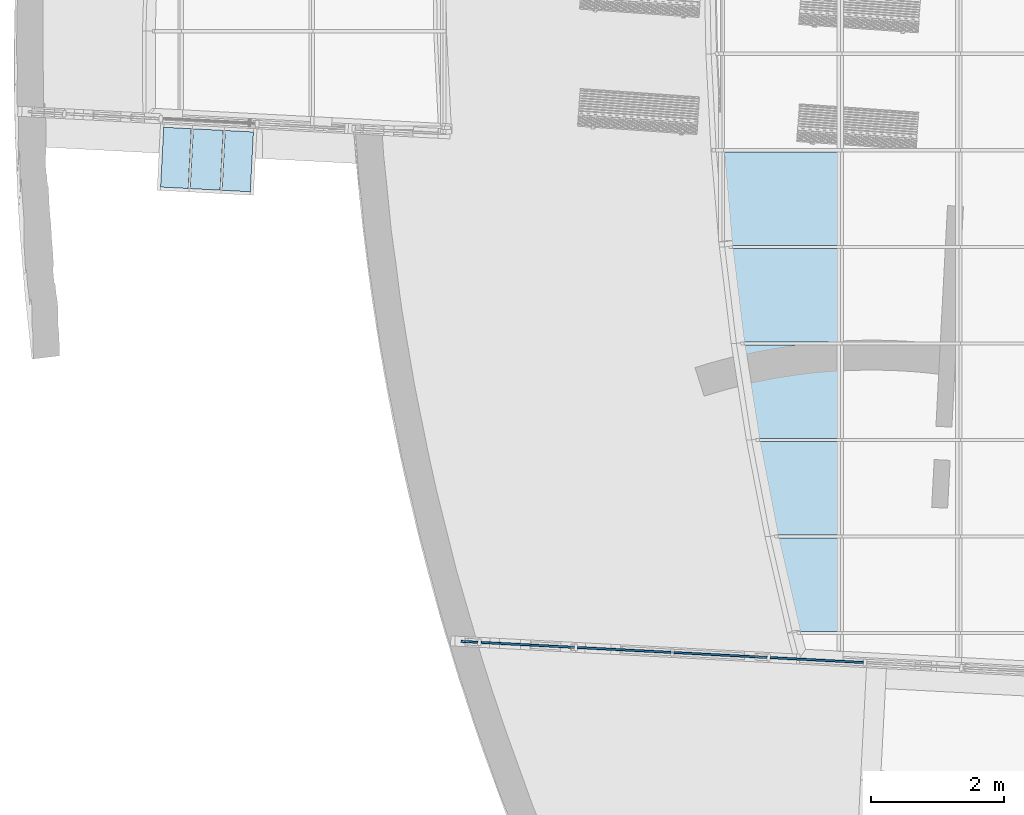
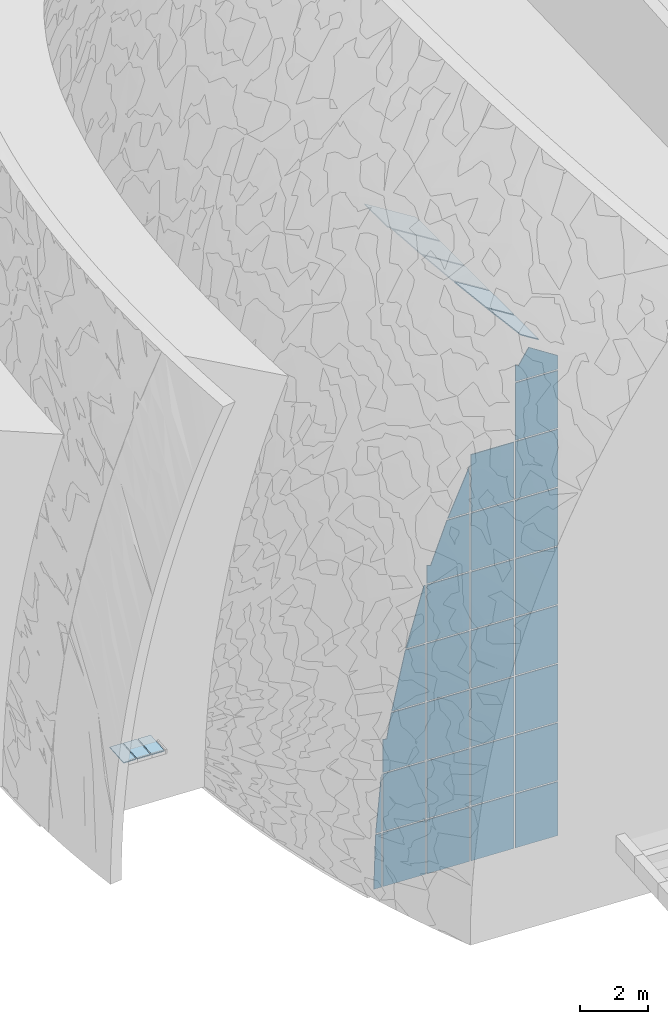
# One storey, part 34 of 82: 38 plates, 2 elements without a shape of their own.
"""IFC2X3 building model written with IfcOpenShell, lengths in millimetres."""

from ifc_helpers import new_model, entity, si_unit, converted_unit, derived_unit, direction, frame, frame_2d, origin, origin_2d_with_axis, place, context, subcontext, project, spatial, polyline, rectangle, outline, extrude, source, transform, mapped, material, layer, layer_set, layer_usage, type_object, type_shapes, element, aggregate, save


model = new_model("IFC2X3")

# Units and contexts
model_context = context("Model", 3, precision=0.01, world=origin(), true_north=direction((6.12303176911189e-17, 1.0)))
body_context = subcontext(model_context, "Body", "Model", "MODEL_VIEW")
ifc_project = project(units=[si_unit("LENGTHUNIT", "METRE", prefix="MILLI"), si_unit("AREAUNIT", "SQUARE_METRE"), si_unit("VOLUMEUNIT", "CUBIC_METRE"), converted_unit("PLANEANGLEUNIT", "DEGREE", entity("IfcRatioMeasure", 0.0174532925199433), si_unit("PLANEANGLEUNIT", "RADIAN"), dimensions=[0, 0, 0, 0, 0, 0, 0]), si_unit("MASSUNIT", "GRAM", prefix="KILO"), derived_unit("MASSDENSITYUNIT", [(si_unit("MASSUNIT", "GRAM", prefix="KILO"), 1), (si_unit("LENGTHUNIT", "METRE"), -3)]), si_unit("TIMEUNIT", "SECOND"), si_unit("FREQUENCYUNIT", "HERTZ"), si_unit("THERMODYNAMICTEMPERATUREUNIT", "DEGREE_CELSIUS"), derived_unit("THERMALTRANSMITTANCEUNIT", [(si_unit("MASSUNIT", "GRAM", prefix="KILO"), 1), (si_unit("THERMODYNAMICTEMPERATUREUNIT", "KELVIN"), -1), (si_unit("TIMEUNIT", "SECOND"), -3)]), derived_unit("VOLUMETRICFLOWRATEUNIT", [(si_unit("LENGTHUNIT", "METRE"), 3), (si_unit("TIMEUNIT", "SECOND"), -1)]), si_unit("ELECTRICCURRENTUNIT", "AMPERE"), si_unit("ELECTRICVOLTAGEUNIT", "VOLT"), si_unit("POWERUNIT", "WATT"), si_unit("FORCEUNIT", "NEWTON", prefix="KILO"), si_unit("ILLUMINANCEUNIT", "LUX"), si_unit("LUMINOUSFLUXUNIT", "LUMEN"), si_unit("LUMINOUSINTENSITYUNIT", "CANDELA"), derived_unit("USERDEFINED", [(si_unit("MASSUNIT", "GRAM", prefix="KILO"), -1), (si_unit("LENGTHUNIT", "METRE"), -2), (si_unit("TIMEUNIT", "SECOND"), 3), (si_unit("LUMINOUSFLUXUNIT", "LUMEN"), 1)]), derived_unit("LINEARVELOCITYUNIT", [(si_unit("LENGTHUNIT", "METRE"), 1), (si_unit("TIMEUNIT", "SECOND"), -1)]), si_unit("PRESSUREUNIT", "PASCAL"), derived_unit("USERDEFINED", [(si_unit("LENGTHUNIT", "METRE"), -2), (si_unit("MASSUNIT", "GRAM", prefix="KILO"), 1), (si_unit("TIMEUNIT", "SECOND"), -2)])], contexts=[model_context])

# Site, building, storey
site_placement = place(None, origin())
site = spatial("IfcSite", under=ifc_project, at=site_placement, Name="表面", CompositionType="ELEMENT")
building_placement = place(site_placement, origin())
building = spatial("IfcBuilding", under=site, at=building_placement, CompositionType="ELEMENT")
storey_placement = place(building_placement, origin())
storey = spatial("IfcBuildingStorey", under=building, at=storey_placement, Name="1F", CompositionType="ELEMENT", Elevation=0.0)

# Curtain wall, plates
curtain_wall_type_1 = type_object("IfcCurtainWallType", Name="幕墙系统:1450 x 2100mm", PredefinedType="NOTDEFINED")
curtain_wall_placement = place(storey_placement, origin())
curtain_wall = element("IfcCurtainWall", 1, at=curtain_wall_placement, inside=storey, type_object=curtain_wall_type_1, Name="幕墙系统:1450 x 2100mm", ObjectType="幕墙系统:1450 x 2100mm")
ifc_material_1 = material(Name="<Unnamed>")
ifc_layer = layer(ifc_material_1, 30.0)
ifc_layer_set = layer_set([ifc_layer], Name="幕墙系统:1450 x 2100mm")
ifc_layer_usage_1 = layer_usage(ifc_layer_set, "AXIS3", "POSITIVE", 0.0)
plate_type_1 = type_object("IfcPlateType", Name="玻璃", PredefinedType="CURTAIN_PANEL", material=ifc_layer_set)
shared_shape_1 = source(origin(), body_context, "Body", "SweptSolid", [
    extrude(rectangle(XDim=30.0, YDim=1400.0, at=frame_2d((0.0, 3.97903932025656e-13), x_axis=(1.0, 0.0))), frame((0.0, 0.0, 0.0), z_axis=(0.0, 0.0, 1.0), x_axis=(0.0, 1.0, 0.0)), (0.0, 0.0, 1.0), 2050.0),
])
type_shapes(plate_type_1, [shared_shape_1])
plate_1_placement = place(curtain_wall_placement, frame((-29172.6966196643, -28294.2495335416, 2125.0), z_axis=(0.0, 0.0, 1.0), x_axis=(-0.998629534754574, 0.0523359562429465, 0.0)))
plate_1 = element("IfcPlate", 2, at=plate_1_placement, type_object=plate_type_1, material=ifc_layer_usage_1, Name="系统嵌板:玻璃", ObjectType="玻璃", context=body_context, shape_type="MappedRepresentation", body=[
    mapped(shared_shape_1, transform((0.0, 0.0, 0.0), scale=1.0)),
])
ifc_layer_usage_2 = layer_usage(ifc_layer_set, "AXIS3", "POSITIVE", 0.0)
plate_2_placement = place(curtain_wall_placement, frame((-30620.7094450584, -28218.3623969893, 2125.0), z_axis=(0.0, 0.0, 1.0), x_axis=(-0.998629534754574, 0.0523359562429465, 0.0)))
plate_2 = element("IfcPlate", 3, at=plate_2_placement, type_object=plate_type_1, material=ifc_layer_usage_2, Name="系统嵌板:玻璃", ObjectType="玻璃", context=body_context, shape_type="MappedRepresentation", body=[
    mapped(shared_shape_1, transform((0.0, 0.0, 0.0), scale=1.0)),
])
ifc_layer_usage_3 = layer_usage(ifc_layer_set, "AXIS3", "POSITIVE", 0.0)
plate_3_placement = place(curtain_wall_placement, frame((-32068.7222704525, -28142.4752604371, 2125.0), z_axis=(0.0, 0.0, 1.0), x_axis=(-0.998629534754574, 0.0523359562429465, 0.0)))
plate_3 = element("IfcPlate", 4, at=plate_3_placement, type_object=plate_type_1, material=ifc_layer_usage_3, Name="系统嵌板:玻璃", ObjectType="玻璃", context=body_context, shape_type="MappedRepresentation", body=[
    mapped(shared_shape_1, transform((0.0, 0.0, 0.0), scale=1.0)),
])
ifc_layer_usage_4 = layer_usage(ifc_layer_set, "AXIS3", "POSITIVE", 0.0)
plate_4_placement = place(curtain_wall_placement, frame((-33516.7350958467, -28066.5881238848, 2125.0), z_axis=(0.0, 0.0, 1.0), x_axis=(-0.998629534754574, 0.0523359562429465, 0.0)))
plate_4 = element("IfcPlate", 5, at=plate_4_placement, type_object=plate_type_1, material=ifc_layer_usage_4, Name="系统嵌板:玻璃", ObjectType="玻璃", context=body_context, shape_type="MappedRepresentation", body=[
    mapped(shared_shape_1, transform((0.0, 0.0, 0.0), scale=1.0)),
])
ifc_layer_usage_5 = layer_usage(ifc_layer_set, "AXIS3", "POSITIVE", 0.0)
plate_5_placement = place(curtain_wall_placement, frame((-29172.6966196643, -28294.2495335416, 4225.0), z_axis=(0.0, 0.0, 1.0), x_axis=(-0.998629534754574, 0.0523359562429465, 0.0)))
plate_5 = element("IfcPlate", 6, at=plate_5_placement, type_object=plate_type_1, material=ifc_layer_usage_5, Name="系统嵌板:玻璃", ObjectType="玻璃", context=body_context, shape_type="MappedRepresentation", body=[
    mapped(shared_shape_1, transform((0.0, 0.0, 0.0), scale=1.0)),
])
ifc_layer_usage_6 = layer_usage(ifc_layer_set, "AXIS3", "POSITIVE", 0.0)
plate_6_placement = place(curtain_wall_placement, frame((-30620.7094450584, -28218.3623969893, 4225.0), z_axis=(0.0, 0.0, 1.0), x_axis=(-0.998629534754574, 0.0523359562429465, 0.0)))
plate_6 = element("IfcPlate", 7, at=plate_6_placement, type_object=plate_type_1, material=ifc_layer_usage_6, Name="系统嵌板:玻璃", ObjectType="玻璃", context=body_context, shape_type="MappedRepresentation", body=[
    mapped(shared_shape_1, transform((0.0, 0.0, 0.0), scale=1.0)),
])
ifc_layer_usage_7 = layer_usage(ifc_layer_set, "AXIS3", "POSITIVE", 0.0)
plate_7_placement = place(curtain_wall_placement, frame((-32068.7222704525, -28142.4752604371, 4225.0), z_axis=(0.0, 0.0, 1.0), x_axis=(-0.998629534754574, 0.0523359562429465, 0.0)))
plate_7 = element("IfcPlate", 8, at=plate_7_placement, type_object=plate_type_1, material=ifc_layer_usage_7, Name="系统嵌板:玻璃", ObjectType="玻璃", context=body_context, shape_type="MappedRepresentation", body=[
    mapped(shared_shape_1, transform((0.0, 0.0, 0.0), scale=1.0)),
])
ifc_layer_usage_8 = layer_usage(ifc_layer_set, "AXIS3", "POSITIVE", 0.0)
plate_8_placement = place(curtain_wall_placement, frame((-29172.6966196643, -28294.2495335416, 6325.0), z_axis=(0.0, 0.0, 1.0), x_axis=(-0.998629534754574, 0.0523359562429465, 0.0)))
plate_8 = element("IfcPlate", 9, at=plate_8_placement, type_object=plate_type_1, material=ifc_layer_usage_8, Name="系统嵌板:玻璃", ObjectType="玻璃", context=body_context, shape_type="MappedRepresentation", body=[
    mapped(shared_shape_1, transform((0.0, 0.0, 0.0), scale=1.0)),
])
ifc_layer_usage_9 = layer_usage(ifc_layer_set, "AXIS3", "POSITIVE", 0.0)
plate_9_placement = place(curtain_wall_placement, frame((-30620.7094450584, -28218.3623969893, 6325.0), z_axis=(0.0, 0.0, 1.0), x_axis=(-0.998629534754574, 0.0523359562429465, 0.0)))
plate_9 = element("IfcPlate", 10, at=plate_9_placement, type_object=plate_type_1, material=ifc_layer_usage_9, Name="系统嵌板:玻璃", ObjectType="玻璃", context=body_context, shape_type="MappedRepresentation", body=[
    mapped(shared_shape_1, transform((0.0, 0.0, 0.0), scale=1.0)),
])
ifc_layer_usage_10 = layer_usage(ifc_layer_set, "AXIS3", "POSITIVE", 0.0)
plate_10_placement = place(curtain_wall_placement, frame((-32068.7222704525, -28142.4752604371, 6325.0), z_axis=(0.0, 0.0, 1.0), x_axis=(-0.998629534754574, 0.0523359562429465, 0.0)))
plate_10 = element("IfcPlate", 11, at=plate_10_placement, type_object=plate_type_1, material=ifc_layer_usage_10, Name="系统嵌板:玻璃", ObjectType="玻璃", context=body_context, shape_type="MappedRepresentation", body=[
    mapped(shared_shape_1, transform((0.0, 0.0, 0.0), scale=1.0)),
])
ifc_layer_usage_11 = layer_usage(ifc_layer_set, "AXIS3", "POSITIVE", 0.0)
plate_11_placement = place(curtain_wall_placement, frame((-29172.6966196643, -28294.2495335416, 8425.0), z_axis=(0.0, 0.0, 1.0), x_axis=(-0.998629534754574, 0.0523359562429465, 0.0)))
plate_11 = element("IfcPlate", 12, at=plate_11_placement, type_object=plate_type_1, material=ifc_layer_usage_11, Name="系统嵌板:玻璃", ObjectType="玻璃", context=body_context, shape_type="MappedRepresentation", body=[
    mapped(shared_shape_1, transform((0.0, 0.0, 0.0), scale=1.0)),
])
ifc_layer_usage_12 = layer_usage(ifc_layer_set, "AXIS3", "POSITIVE", 0.0)
plate_12_placement = place(curtain_wall_placement, frame((-30620.7094450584, -28218.3623969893, 8425.0), z_axis=(0.0, 0.0, 1.0), x_axis=(-0.998629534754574, 0.0523359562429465, 0.0)))
plate_12 = element("IfcPlate", 13, at=plate_12_placement, type_object=plate_type_1, material=ifc_layer_usage_12, Name="系统嵌板:玻璃", ObjectType="玻璃", context=body_context, shape_type="MappedRepresentation", body=[
    mapped(shared_shape_1, transform((0.0, 0.0, 0.0), scale=1.0)),
])
ifc_layer_usage_13 = layer_usage(ifc_layer_set, "AXIS3", "POSITIVE", 0.0)
plate_13_placement = place(curtain_wall_placement, frame((-32068.7222704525, -28142.4752604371, 8425.0), z_axis=(0.0, 0.0, 1.0), x_axis=(-0.998629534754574, 0.0523359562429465, 0.0)))
plate_13 = element("IfcPlate", 14, at=plate_13_placement, type_object=plate_type_1, material=ifc_layer_usage_13, Name="系统嵌板:玻璃", ObjectType="玻璃", context=body_context, shape_type="MappedRepresentation", body=[
    mapped(shared_shape_1, transform((0.0, 0.0, 0.0), scale=1.0)),
])
ifc_layer_usage_14 = layer_usage(ifc_layer_set, "AXIS3", "POSITIVE", 0.0)
plate_14_placement = place(curtain_wall_placement, frame((-29172.6966196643, -28294.2495335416, 10525.0), z_axis=(0.0, 0.0, 1.0), x_axis=(-0.998629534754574, 0.0523359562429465, 0.0)))
plate_14 = element("IfcPlate", 15, at=plate_14_placement, type_object=plate_type_1, material=ifc_layer_usage_14, Name="系统嵌板:玻璃", ObjectType="玻璃", context=body_context, shape_type="MappedRepresentation", body=[
    mapped(shared_shape_1, transform((0.0, 0.0, 0.0), scale=1.0)),
])
ifc_layer_usage_15 = layer_usage(ifc_layer_set, "AXIS3", "POSITIVE", 0.0)
plate_15_placement = place(curtain_wall_placement, frame((-30620.7094450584, -28218.3623969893, 10525.0), z_axis=(0.0, 0.0, 1.0), x_axis=(-0.998629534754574, 0.0523359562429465, 0.0)))
plate_15 = element("IfcPlate", 16, at=plate_15_placement, type_object=plate_type_1, material=ifc_layer_usage_15, Name="系统嵌板:玻璃", ObjectType="玻璃", context=body_context, shape_type="MappedRepresentation", body=[
    mapped(shared_shape_1, transform((0.0, 0.0, 0.0), scale=1.0)),
])
ifc_layer_usage_16 = layer_usage(ifc_layer_set, "AXIS3", "POSITIVE", 0.0)
plate_16_placement = place(curtain_wall_placement, frame((-29172.6966196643, -28294.2495335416, 12625.0), z_axis=(0.0, 0.0, 1.0), x_axis=(-0.998629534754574, 0.0523359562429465, 0.0)))
plate_16 = element("IfcPlate", 17, at=plate_16_placement, type_object=plate_type_1, material=ifc_layer_usage_16, Name="系统嵌板:玻璃", ObjectType="玻璃", context=body_context, shape_type="MappedRepresentation", body=[
    mapped(shared_shape_1, transform((0.0, 0.0, 0.0), scale=1.0)),
])
ifc_layer_usage_17 = layer_usage(ifc_layer_set, "AXIS3", "POSITIVE", 0.0)
plate_17_placement = place(curtain_wall_placement, frame((-30620.7094450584, -28218.3623969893, 12625.0), z_axis=(0.0, 0.0, 1.0), x_axis=(-0.998629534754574, 0.0523359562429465, 0.0)))
plate_17 = element("IfcPlate", 18, at=plate_17_placement, type_object=plate_type_1, material=ifc_layer_usage_17, Name="系统嵌板:玻璃", ObjectType="玻璃", context=body_context, shape_type="MappedRepresentation", body=[
    mapped(shared_shape_1, transform((0.0, 0.0, 0.0), scale=1.0)),
])
ifc_layer_usage_18 = layer_usage(ifc_layer_set, "AXIS3", "POSITIVE", 0.0)
plate_18_placement = place(curtain_wall_placement, frame((-29172.6966196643, -28294.2495335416, 14725.0), z_axis=(0.0, 0.0, 1.0), x_axis=(-0.998629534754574, 0.0523359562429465, 0.0)))
plate_18 = element("IfcPlate", 19, at=plate_18_placement, type_object=plate_type_1, material=ifc_layer_usage_18, Name="系统嵌板:玻璃", ObjectType="玻璃", context=body_context, shape_type="MappedRepresentation", body=[
    mapped(shared_shape_1, transform((0.0, 0.0, 0.0), scale=1.0)),
])
ifc_layer_usage_19 = layer_usage(ifc_layer_set, "AXIS3", "POSITIVE", 0.0)
plate_type_2 = type_object("IfcPlateType", Name="玻璃", PredefinedType="CURTAIN_PANEL", material=ifc_layer_set)
shared_shape_2 = source(origin(), body_context, "Body", "SweptSolid", [
    extrude(rectangle(XDim=30.0, YDim=1400.0, at=frame_2d((0.0, 3.97903932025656e-13), x_axis=(1.0, 0.0))), frame((0.0, 0.0, 0.0), z_axis=(0.0, 0.0, 1.0), x_axis=(0.0, 1.0, 0.0)), (0.0, 0.0, 1.0), 1925.0),
])
type_shapes(plate_type_2, [shared_shape_2])
plate_19_placement = place(curtain_wall_placement, frame((-29172.6966196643, -28294.2495335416, 150.0), z_axis=(0.0, 0.0, 1.0), x_axis=(-0.998629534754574, 0.0523359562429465, 0.0)))
plate_19 = element("IfcPlate", 20, at=plate_19_placement, type_object=plate_type_2, material=ifc_layer_usage_19, Name="系统嵌板:玻璃", ObjectType="玻璃", context=body_context, shape_type="MappedRepresentation", body=[
    mapped(shared_shape_2, transform((0.0, 0.0, 0.0), scale=1.0)),
])
ifc_layer_usage_20 = layer_usage(ifc_layer_set, "AXIS3", "POSITIVE", 0.0)
plate_20_placement = place(curtain_wall_placement, frame((-30620.7094450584, -28218.3623969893, 150.0), z_axis=(0.0, 0.0, 1.0), x_axis=(-0.998629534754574, 0.0523359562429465, 0.0)))
plate_20 = element("IfcPlate", 21, at=plate_20_placement, type_object=plate_type_2, material=ifc_layer_usage_20, Name="系统嵌板:玻璃", ObjectType="玻璃", context=body_context, shape_type="MappedRepresentation", body=[
    mapped(shared_shape_2, transform((0.0, 0.0, 0.0), scale=1.0)),
])
ifc_layer_usage_21 = layer_usage(ifc_layer_set, "AXIS3", "POSITIVE", 0.0)
plate_21_placement = place(curtain_wall_placement, frame((-32068.7222704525, -28142.4752604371, 150.0), z_axis=(0.0, 0.0, 1.0), x_axis=(-0.998629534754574, 0.0523359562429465, 0.0)))
plate_21 = element("IfcPlate", 22, at=plate_21_placement, type_object=plate_type_2, material=ifc_layer_usage_21, Name="系统嵌板:玻璃", ObjectType="玻璃", context=body_context, shape_type="MappedRepresentation", body=[
    mapped(shared_shape_2, transform((0.0, 0.0, 0.0), scale=1.0)),
])
ifc_layer_usage_22 = layer_usage(ifc_layer_set, "AXIS3", "POSITIVE", 0.0)
plate_22_placement = place(curtain_wall_placement, frame((-33516.7350958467, -28066.5881238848, 150.0), z_axis=(0.0, 0.0, 1.0), x_axis=(-0.998629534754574, 0.0523359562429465, 0.0)))
plate_22 = element("IfcPlate", 23, at=plate_22_placement, type_object=plate_type_2, material=ifc_layer_usage_22, Name="系统嵌板:玻璃", ObjectType="玻璃", context=body_context, shape_type="MappedRepresentation", body=[
    mapped(shared_shape_2, transform((0.0, 0.0, 0.0), scale=1.0)),
])
ifc_layer_usage_23 = layer_usage(ifc_layer_set, "AXIS3", "POSITIVE", 0.0)
plate_type_3 = type_object("IfcPlateType", Name="玻璃", PredefinedType="CURTAIN_PANEL", material=ifc_layer_set)
shared_shape_3 = source(origin(), body_context, "Body", "SweptSolid", [
    extrude(outline(polyline([(-1323.94470153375, -913.037626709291), (726.055298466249, -913.037626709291), (726.055298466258, 435.163797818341), (602.160726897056, 416.986709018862), (593.618079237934, 486.962373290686), (-1323.94470153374, 486.962373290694), (-1323.94470153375, -913.037626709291)])), frame((213.037626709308, -15.0, 1323.94470153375), z_axis=(0.0, 1.0, 0.0), x_axis=(0.0, 0.0, 1.0)), (0.0, 0.0, 1.0), 30.0),
])
type_shapes(plate_type_3, [shared_shape_3])
plate_23_placement = place(curtain_wall_placement, frame((-28844.805825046, -21363.9031535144, 17720.4320530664), z_axis=(-0.848048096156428, 0.0, 0.529919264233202), x_axis=(0.0, -1.0, 0.0)))
plate_23 = element("IfcPlate", 24, at=plate_23_placement, type_object=plate_type_3, material=ifc_layer_usage_23, Name="系统嵌板:玻璃", ObjectType="玻璃", context=body_context, shape_type="MappedRepresentation", body=[
    mapped(shared_shape_3, transform((0.0, 0.0, 0.0), scale=1.0)),
])
ifc_layer_usage_24 = layer_usage(ifc_layer_set, "AXIS3", "POSITIVE", 0.0)
plate_type_4 = type_object("IfcPlateType", Name="玻璃", PredefinedType="CURTAIN_PANEL", material=ifc_layer_set)
shared_shape_4 = source(origin(), body_context, "Body", "SweptSolid", [
    extrude(outline(polyline([(-904.938677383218, -700.0), (1005.55094502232, -700.0), (804.326409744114, 700.0), (-904.938677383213, 700.0), (-904.938677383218, -700.0)])), frame((0.0, -15.0, 904.938677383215), z_axis=(0.0, 1.0, 0.0), x_axis=(0.0, 0.0, 1.0)), (0.0, 0.0, 1.0), 30.0),
])
type_shapes(plate_type_4, [shared_shape_4])
plate_24_placement = place(curtain_wall_placement, frame((-28844.8058250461, -22813.9031535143, 17720.4320530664), z_axis=(-0.848048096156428, 0.0, 0.529919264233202), x_axis=(0.0, -1.0, 0.0)))
plate_24 = element("IfcPlate", 25, at=plate_24_placement, type_object=plate_type_4, material=ifc_layer_usage_24, Name="系统嵌板:玻璃", ObjectType="玻璃", context=body_context, shape_type="MappedRepresentation", body=[
    mapped(shared_shape_4, transform((0.0, 0.0, 0.0), scale=1.0)),
])
ifc_layer_usage_25 = layer_usage(ifc_layer_set, "AXIS3", "POSITIVE", 0.0)
plate_type_5 = type_object("IfcPlateType", Name="玻璃", PredefinedType="CURTAIN_PANEL", material=ifc_layer_set)
shared_shape_5 = source(origin(), body_context, "Body", "SweptSolid", [
    extrude(outline(polyline([(-785.126467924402, -700.0), (914.896364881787, -700.0), (655.356570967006, 700.0), (-785.126467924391, 700.0), (-785.126467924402, -700.0)])), frame((0.0, -15.0, 785.126467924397), z_axis=(0.0, 1.0, 0.0), x_axis=(0.0, 0.0, 1.0)), (0.0, 0.0, 1.0), 30.0),
])
type_shapes(plate_type_5, [shared_shape_5])
plate_25_placement = place(curtain_wall_placement, frame((-28844.8058250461, -24263.9031535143, 17720.4320530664), z_axis=(-0.848048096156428, 0.0, 0.529919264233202), x_axis=(0.0, -1.0, 0.0)))
plate_25 = element("IfcPlate", 26, at=plate_25_placement, type_object=plate_type_5, material=ifc_layer_usage_25, Name="系统嵌板:玻璃", ObjectType="玻璃", context=body_context, shape_type="MappedRepresentation", body=[
    mapped(shared_shape_5, transform((0.0, 0.0, 0.0), scale=1.0)),
])
ifc_layer_usage_26 = layer_usage(ifc_layer_set, "AXIS3", "POSITIVE", 0.0)
plate_type_6 = type_object("IfcPlateType", Name="玻璃", PredefinedType="CURTAIN_PANEL", material=ifc_layer_set)
shared_shape_6 = source(origin(), body_context, "Body", "SweptSolid", [
    extrude(outline(polyline([(-634.629514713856, -700.0), (794.225614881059, -700.0), (475.033414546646, 700.0), (-634.62951471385, 700.0), (-634.629514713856, -700.0)])), frame((0.0, -15.0, 634.629514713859), z_axis=(0.0, 1.0, 0.0), x_axis=(0.0, 0.0, 1.0)), (0.0, 0.0, 1.0), 30.0),
])
type_shapes(plate_type_6, [shared_shape_6])
plate_26_placement = place(curtain_wall_placement, frame((-28844.8058250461, -25713.9031535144, 17720.4320530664), z_axis=(-0.848048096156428, 0.0, 0.529919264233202), x_axis=(0.0, -1.0, 0.0)))
plate_26 = element("IfcPlate", 27, at=plate_26_placement, type_object=plate_type_6, material=ifc_layer_usage_26, Name="系统嵌板:玻璃", ObjectType="玻璃", context=body_context, shape_type="MappedRepresentation", body=[
    mapped(shared_shape_6, transform((0.0, 0.0, 0.0), scale=1.0)),
])
ifc_layer_usage_27 = layer_usage(ifc_layer_set, "AXIS3", "POSITIVE", 0.0)
plate_type_7 = type_object("IfcPlateType", Name="玻璃", PredefinedType="CURTAIN_PANEL", material=ifc_layer_set)
shared_shape_7 = source(origin(), body_context, "Body", "SweptSolid", [
    extrude(outline(polyline([(-452.650629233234, -700.0), (642.923545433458, -700.0), (262.377713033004, 700.0), (-452.650629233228, 700.0), (-452.650629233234, -700.0)])), frame((0.0, -15.0, 452.650629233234), z_axis=(0.0, 1.0, 0.0), x_axis=(0.0, 0.0, 1.0)), (0.0, 0.0, 1.0), 30.0),
])
type_shapes(plate_type_7, [shared_shape_7])
plate_27_placement = place(curtain_wall_placement, frame((-28844.8058250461, -27163.9031535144, 17720.4320530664), z_axis=(-0.848048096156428, 0.0, 0.529919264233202), x_axis=(0.0, -1.0, 0.0)))
plate_27 = element("IfcPlate", 28, at=plate_27_placement, type_object=plate_type_7, material=ifc_layer_usage_27, Name="系统嵌板:玻璃", ObjectType="玻璃", context=body_context, shape_type="MappedRepresentation", body=[
    mapped(shared_shape_7, transform((0.0, 0.0, 0.0), scale=1.0)),
])
ifc_layer_usage_28 = layer_usage(ifc_layer_set, "AXIS3", "POSITIVE", 0.0)
plate_type_8 = type_object("IfcPlateType", Name="玻璃", PredefinedType="CURTAIN_PANEL", material=ifc_layer_set)
shared_shape_8 = source(origin(), body_context, "Body", "SweptSolid", [
    extrude(outline(polyline([(-962.5, -111.184773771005), (962.5, -111.184773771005), (962.5, 81.5650919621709), (-962.5, 140.804455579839), (-962.5, -111.184773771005)])), frame((-14.8098409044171, -15.0, 962.5), z_axis=(0.0, 1.0, 0.0), x_axis=(0.0, 0.0, 1.0)), (0.0, 0.0, 1.0), 30.0),
])
type_shapes(plate_type_8, [shared_shape_8])
plate_28_placement = place(curtain_wall_placement, frame((-34391.5291903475, -28020.7421080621, 150.0), z_axis=(0.0, 0.0, 1.0), x_axis=(-0.998629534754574, 0.0523359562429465, 0.0)))
plate_28 = element("IfcPlate", 29, at=plate_28_placement, type_object=plate_type_8, material=ifc_layer_usage_28, Name="系统嵌板:玻璃", ObjectType="玻璃", context=body_context, shape_type="MappedRepresentation", body=[
    mapped(shared_shape_8, transform((0.0, 0.0, 0.0), scale=1.0)),
])
ifc_layer_usage_29 = layer_usage(ifc_layer_set, "AXIS3", "POSITIVE", 0.0)
plate_type_9 = type_object("IfcPlateType", Name="玻璃", PredefinedType="CURTAIN_PANEL", material=ifc_layer_set)
shared_shape_9 = source(origin(), body_context, "Body", "SweptSolid", [
    extrude(outline(polyline([(-680.139390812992, -63.0306527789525), (1360.27878162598, -63.0306527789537), (-680.139390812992, 126.061305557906), (-680.139390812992, -63.0306527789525)])), frame((-31.5153263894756, -15.0, 680.139390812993), z_axis=(0.0, 1.0, 0.0), x_axis=(0.0, 0.0, 1.0)), (0.0, 0.0, 1.0), 30.0),
])
type_shapes(plate_type_9, [shared_shape_9])
plate_29_placement = place(curtain_wall_placement, frame((-34360.1236541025, -28022.3880024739, 2125.0), z_axis=(0.0, 0.0, 1.0), x_axis=(-0.998629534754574, 0.0523359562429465, 0.0)))
plate_29 = element("IfcPlate", 30, at=plate_29_placement, type_object=plate_type_9, material=ifc_layer_usage_29, Name="系统嵌板:玻璃", ObjectType="玻璃", context=body_context, shape_type="MappedRepresentation", body=[
    mapped(shared_shape_9, transform((0.0, 0.0, 0.0), scale=1.0)),
])
ifc_layer_usage_30 = layer_usage(ifc_layer_set, "AXIS3", "POSITIVE", 0.0)
plate_type_10 = type_object("IfcPlateType", Name="玻璃", PredefinedType="CURTAIN_PANEL", material=ifc_layer_set)
shared_shape_10 = source(origin(), body_context, "Body", "SweptSolid", [
    extrude(outline(polyline([(-1075.00364953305, -866.648856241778), (974.996350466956, -866.648856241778), (974.996350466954, 256.022040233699), (87.1452041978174, 410.573384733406), (112.869393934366, 533.351143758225), (-1075.00364953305, 533.351143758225), (-1075.00364953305, -866.648856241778)])), frame((166.64885624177, -15.0, 1075.00364953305), z_axis=(0.0, 1.0, 0.0), x_axis=(0.0, 0.0, 1.0)), (0.0, 0.0, 1.0), 30.0),
])
type_shapes(plate_type_10, [shared_shape_10])
plate_30_placement = place(curtain_wall_placement, frame((-33516.7350958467, -28066.5881238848, 4225.0), z_axis=(0.0, 0.0, 1.0), x_axis=(-0.998629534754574, 0.0523359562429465, 0.0)))
plate_30 = element("IfcPlate", 31, at=plate_30_placement, type_object=plate_type_10, material=ifc_layer_usage_30, Name="系统嵌板:玻璃", ObjectType="玻璃", context=body_context, shape_type="MappedRepresentation", body=[
    mapped(shared_shape_10, transform((0.0, 0.0, 0.0), scale=1.0)),
])
ifc_layer_usage_31 = layer_usage(ifc_layer_set, "AXIS3", "POSITIVE", 0.0)
plate_type_11 = type_object("IfcPlateType", Name="玻璃", PredefinedType="CURTAIN_PANEL", material=ifc_layer_set)
shared_shape_11 = source(origin(), body_context, "Body", "SweptSolid", [
    extrude(outline(polyline([(-1025.0, -442.728358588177), (1025.0, -442.728358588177), (1025.0, 216.72555682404), (-1025.0, 668.731160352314), (-1025.0, -442.728358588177)])), frame((-113.001400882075, -15.0, 1025.0), z_axis=(0.0, 1.0, 0.0), x_axis=(0.0, 0.0, 1.0)), (0.0, 0.0, 1.0), 30.0),
])
type_shapes(plate_type_11, [shared_shape_11])
plate_31_placement = place(curtain_wall_placement, frame((-33372.6625726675, -28074.1386448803, 6325.0), z_axis=(0.0, 0.0, 1.0), x_axis=(-0.998629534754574, 0.0523359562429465, 0.0)))
plate_31 = element("IfcPlate", 32, at=plate_31_placement, type_object=plate_type_11, material=ifc_layer_usage_31, Name="系统嵌板:玻璃", ObjectType="玻璃", context=body_context, shape_type="MappedRepresentation", body=[
    mapped(shared_shape_11, transform((0.0, 0.0, 0.0), scale=1.0)),
])
ifc_layer_usage_32 = layer_usage(ifc_layer_set, "AXIS3", "POSITIVE", 0.0)
plate_type_12 = type_object("IfcPlateType", Name="玻璃", PredefinedType="CURTAIN_PANEL", material=ifc_layer_set)
shared_shape_12 = source(origin(), body_context, "Body", "SweptSolid", [
    extrude(outline(polyline([(-1025.0, -174.467512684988), (1025.0, -174.467512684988), (1025.0, -120.838289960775), (-1025.0, 469.773315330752), (-1025.0, -174.467512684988)])), frame((-147.652901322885, -15.0, 1025.0), z_axis=(0.0, 1.0, 0.0), x_axis=(0.0, 0.0, 1.0)), (0.0, 0.0, 1.0), 30.0),
])
type_shapes(plate_type_12, [shared_shape_12])
plate_32_placement = place(curtain_wall_placement, frame((-33139.3733806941, -28086.3648133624, 8425.0), z_axis=(0.0, 0.0, 1.0), x_axis=(-0.998629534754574, 0.0523359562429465, 0.0)))
plate_32 = element("IfcPlate", 33, at=plate_32_placement, type_object=plate_type_12, material=ifc_layer_usage_32, Name="系统嵌板:玻璃", ObjectType="玻璃", context=body_context, shape_type="MappedRepresentation", body=[
    mapped(shared_shape_12, transform((0.0, 0.0, 0.0), scale=1.0)),
])
ifc_layer_usage_33 = layer_usage(ifc_layer_set, "AXIS3", "POSITIVE", 0.0)
plate_type_13 = type_object("IfcPlateType", Name="玻璃", PredefinedType="CURTAIN_PANEL", material=ifc_layer_set)
shared_shape_13 = source(origin(), body_context, "Body", "SweptSolid", [
    extrude(outline(polyline([(-892.876558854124, -805.177789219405), (1157.12344114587, -805.177789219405), (1157.12344114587, -58.4995487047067), (-290.363948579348, 479.210705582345), (-238.129816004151, 594.822210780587), (-892.876558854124, 594.822210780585), (-892.876558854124, -805.177789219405)])), frame((105.1777892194, -15.0, 892.876558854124), z_axis=(0.0, 1.0, 0.0), x_axis=(0.0, 0.0, 1.0)), (0.0, 0.0, 1.0), 30.0),
])
type_shapes(plate_type_13, [shared_shape_13])
plate_33_placement = place(curtain_wall_placement, frame((-32068.7222704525, -28142.4752604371, 10525.0), z_axis=(0.0, 0.0, 1.0), x_axis=(-0.998629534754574, 0.0523359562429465, 0.0)))
plate_33 = element("IfcPlate", 34, at=plate_33_placement, type_object=plate_type_13, material=ifc_layer_usage_33, Name="系统嵌板:玻璃", ObjectType="玻璃", context=body_context, shape_type="MappedRepresentation", body=[
    mapped(shared_shape_13, transform((0.0, 0.0, 0.0), scale=1.0)),
])
ifc_layer_usage_34 = layer_usage(ifc_layer_set, "AXIS3", "POSITIVE", 0.0)
plate_type_14 = type_object("IfcPlateType", Name="玻璃", PredefinedType="CURTAIN_PANEL", material=ifc_layer_set)
shared_shape_14 = source(origin(), body_context, "Body", "SweptSolid", [
    extrude(outline(polyline([(-552.237594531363, -240.94762842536), (1104.47518906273, -240.94762842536), (-552.237594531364, 481.895256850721), (-552.237594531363, -240.94762842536)])), frame((-120.473814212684, -15.0, 552.237594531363), z_axis=(0.0, 1.0, 0.0), x_axis=(0.0, 0.0, 1.0)), (0.0, 0.0, 1.0), 30.0),
])
type_shapes(plate_type_14, [shared_shape_14])
plate_34_placement = place(curtain_wall_placement, frame((-31730.6077232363, -28160.195093, 12625.0), z_axis=(0.0, 0.0, 1.0), x_axis=(-0.998629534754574, 0.0523359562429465, 0.0)))
plate_34 = element("IfcPlate", 35, at=plate_34_placement, type_object=plate_type_14, material=ifc_layer_usage_34, Name="系统嵌板:玻璃", ObjectType="玻璃", context=body_context, shape_type="MappedRepresentation", body=[
    mapped(shared_shape_14, transform((0.0, 0.0, 0.0), scale=1.0)),
])
ifc_layer_usage_35 = layer_usage(ifc_layer_set, "AXIS3", "POSITIVE", 0.0)
plate_type_15 = type_object("IfcPlateType", Name="玻璃", PredefinedType="CURTAIN_PANEL", material=ifc_layer_set)
shared_shape_15 = source(origin(), body_context, "Body", "SweptSolid", [
    extrude(outline(polyline([(-449.82522462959, -842.254502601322), (36.8779199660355, -842.254502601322), (633.817397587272, 114.359361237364), (75.4462985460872, 454.658649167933), (153.508833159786, 557.745497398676), (-449.825224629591, 557.745497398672), (-449.82522462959, -842.254502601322)])), frame((142.254502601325, -15.0, 449.825224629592), z_axis=(0.0, 1.0, 0.0), x_axis=(0.0, 0.0, 1.0)), (0.0, 0.0, 1.0), 30.0),
])
type_shapes(plate_type_15, [shared_shape_15])
plate_35_placement = place(curtain_wall_placement, frame((-29172.6966196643, -28294.2495335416, 16825.0), z_axis=(0.0, 0.0, 1.0), x_axis=(-0.998629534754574, 0.0523359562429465, 0.0)))
plate_35 = element("IfcPlate", 36, at=plate_35_placement, type_object=plate_type_15, material=ifc_layer_usage_35, Name="系统嵌板:玻璃", ObjectType="玻璃", context=body_context, shape_type="MappedRepresentation", body=[
    mapped(shared_shape_15, transform((0.0, 0.0, 0.0), scale=1.0)),
])
aggregate(curtain_wall, [plate_23, plate_24, plate_25, plate_26, plate_27, plate_19, plate_20, plate_21, plate_22, plate_28, plate_1, plate_2, plate_3, plate_4, plate_29, plate_5, plate_6, plate_7, plate_30, plate_8, plate_9, plate_10, plate_31, plate_11, plate_12, plate_13, plate_32, plate_14, plate_15, plate_33, plate_16, plate_17, plate_34, plate_18, plate_35])

# Roof, plates
curtain_wall_type_2 = type_object("IfcCurtainWallType", Name="玻璃斜窗:玻璃斜窗 2", PredefinedType="NOTDEFINED")
roof_placement = place(storey_placement, origin())
roof = element("IfcRoof", 37, at=roof_placement, inside=storey, type_object=curtain_wall_type_2, Name="玻璃斜窗:玻璃斜窗 2", ObjectType="玻璃斜窗:玻璃斜窗 2", ShapeType="NOTDEFINED")
ifc_material_2 = material(Name="玻璃")
plate_type_16 = type_object("IfcPlateType", Name="玻璃嵌板", PredefinedType="CURTAIN_PANEL", material=ifc_material_2)
shared_shape_16 = source(origin(), body_context, "Body", "SweptSolid", [
    extrude(rectangle(XDim=30.0, YDim=415.0, at=origin_2d_with_axis()), frame((0.0, 0.0, 0.0), z_axis=(0.0, 0.0, 1.0), x_axis=(0.0, 1.0, 0.0)), (0.0, 0.0, 1.0), 899.999999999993),
])
type_shapes(plate_type_16, [shared_shape_16])
plate_36_placement = place(roof_placement, frame((-38822.9612251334, -21200.9057426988, 2100.0), z_axis=(0.0523359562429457, 0.998629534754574, 0.0), x_axis=(0.998629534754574, -0.0523359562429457, 0.0)))
plate_36 = element("IfcPlate", 38, at=plate_36_placement, type_object=plate_type_16, material=ifc_material_2, Name="玻璃嵌板:玻璃嵌板", ObjectType="玻璃嵌板", context=body_context, shape_type="MappedRepresentation", body=[
    mapped(shared_shape_16, transform((0.0, 0.0, 0.0), scale=1.0)),
])
plate_type_17 = type_object("IfcPlateType", Name="玻璃嵌板", PredefinedType="CURTAIN_PANEL", material=ifc_material_2)
shared_shape_17 = source(origin(), body_context, "Body", "SweptSolid", [
    extrude(rectangle(XDim=30.0, YDim=449.99999999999, at=origin_2d_with_axis()), frame((0.0, 0.0, 0.0), z_axis=(0.0, 0.0, 1.0), x_axis=(0.0, 1.0, 0.0)), (0.0, 0.0, 1.0), 899.99999999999),
])
type_shapes(plate_type_17, [shared_shape_17])
plate_37_placement = place(roof_placement, frame((-38361.0950653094, -21225.1111224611, 2100.0), z_axis=(0.0523359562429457, 0.998629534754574, 0.0), x_axis=(0.998629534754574, -0.0523359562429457, 0.0)))
plate_37 = element("IfcPlate", 39, at=plate_37_placement, type_object=plate_type_17, material=ifc_material_2, Name="玻璃嵌板:玻璃嵌板", ObjectType="玻璃嵌板", context=body_context, shape_type="MappedRepresentation", body=[
    mapped(shared_shape_17, transform((0.0, 0.0, 0.0), scale=1.0)),
])
plate_type_18 = type_object("IfcPlateType", Name="玻璃嵌板", PredefinedType="CURTAIN_PANEL", material=ifc_material_2)
shared_shape_18 = source(origin(), body_context, "Body", "SweptSolid", [
    extrude(rectangle(XDim=30.0, YDim=424.999999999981, at=origin_2d_with_axis()), frame((0.0, 0.0, 0.0), z_axis=(0.0, 0.0, 1.0), x_axis=(0.0, 1.0, 0.0)), (0.0, 0.0, 1.0), 899.999999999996),
])
type_shapes(plate_type_18, [shared_shape_18])
plate_38_placement = place(roof_placement, frame((-37894.2357578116, -21249.5781820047, 2100.0), z_axis=(0.0523359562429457, 0.998629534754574, 0.0), x_axis=(0.998629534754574, -0.0523359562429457, 0.0)))
plate_38 = element("IfcPlate", 40, at=plate_38_placement, type_object=plate_type_18, material=ifc_material_2, Name="玻璃嵌板:玻璃嵌板", ObjectType="玻璃嵌板", context=body_context, shape_type="MappedRepresentation", body=[
    mapped(shared_shape_18, transform((0.0, 0.0, 0.0), scale=1.0)),
])
aggregate(roof, [plate_36, plate_37, plate_38])

save(model, "model.ifc")
